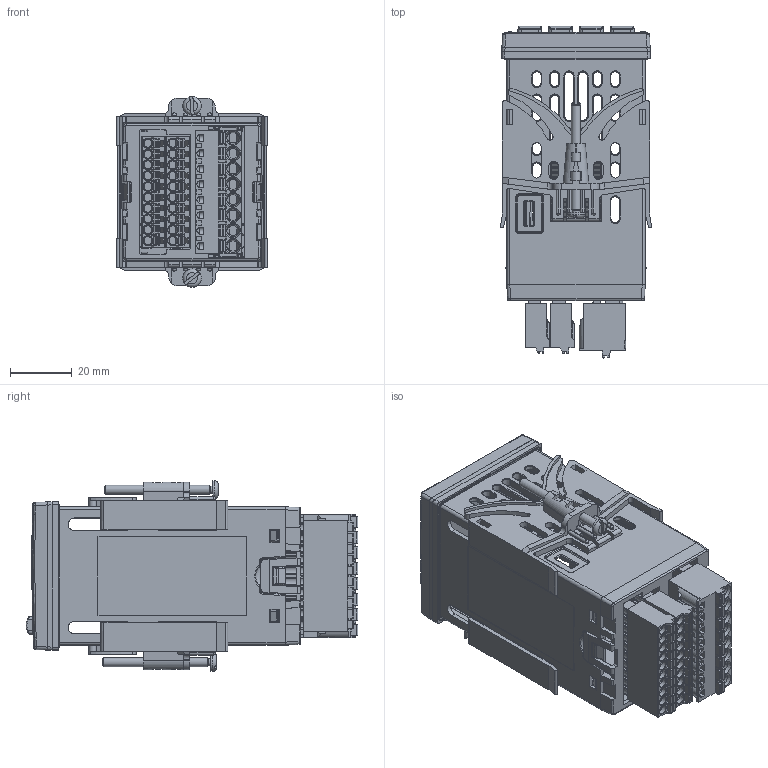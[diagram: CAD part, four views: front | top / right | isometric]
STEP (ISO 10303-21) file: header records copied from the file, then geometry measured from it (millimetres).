
FILE_DESCRIPTION(/* description */ (''),/* implementation_level */ '2;1');
FILE_NAME(/* name */ 'ATR244_23_20210127.stp',/* time_stamp */ '2026-08-28T10:20:48+02:00',/* author */ ('ut3'),/* organization */ ('NYSS'),/* preprocessor_version */ 'ST-DEVELOPER v20.1',/* originating_system */ 'Autodesk Inventor 2026',/* authorisation */ '');
FILE_SCHEMA (('AUTOMOTIVE_DESIGN { 1 0 10303 214 3 1 1 }'));
Products named in the file (10): ATR244_20210127; 1300_20_337_REV3; NONE_NONE-8972; 1300_20_338_REV3; 1300_20_333; 1300_20_341_REV2; AS 1427 - M3 x 35; 5ESDSR-08P; 0221-2010; 1300_20_340_REV3
Assembly tree (12 placements, depth 2):
  ATR244_20210127
    1300_20_337_REV3
    NONE_NONE-8972  x2
    1300_20_338_REV3
    1300_20_333
    1300_20_341_REV2
    AS 1427 - M3 x 35  x2
    5ESDSR-08P
    0221-2010  x2
    1300_20_340_REV3
Bounding box: 48.91 x 107.45 x 61.79 mm (x, y, z)
Volume: 56783.7 mm3; surface area: 68775.6 mm2
Topology: 12 solids, 12 shells, 4693 faces, 12242 edges, 7698 vertices
Faces by surface type: plane 2189, cylinder 1696, bspline 405, cone 232, torus 131, sphere 40
Full cylindrical faces by diameter (mm): 1.2 x20, 1.6 x8, 2.387 x2, 3 x2, 3.1 x20, 4 x8
Entity records: 146689 total; most frequent: CARTESIAN_POINT 53200, ORIENTED_EDGE 19306, DIRECTION 19127, EDGE_CURVE 9653, AXIS2_PLACEMENT_3D 6715, VERTEX_POINT 6001, LINE 5697, VECTOR 5697
